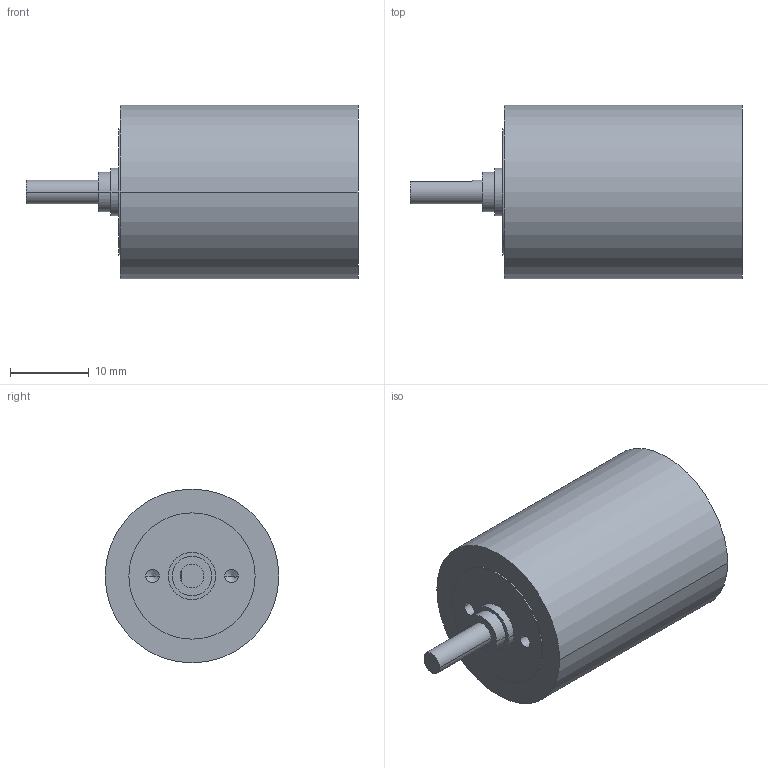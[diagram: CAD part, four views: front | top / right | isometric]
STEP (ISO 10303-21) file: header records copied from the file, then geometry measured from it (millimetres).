
FILE_DESCRIPTION((''),'2;1');
FILE_NAME('1682158','2016-10-04T',('mmagvisi'),(''),'CREO PARAMETRIC BY PTC INC, 2016050','CREO PARAMETRIC BY PTC INC, 2016050','');
FILE_SCHEMA(('CONFIG_CONTROL_DESIGN'));
Length unit declared in the file: millimetre
Products named in the file (1): 1682158
Bounding box: 42.05 x 22 x 22 mm (x, y, z)
Volume: 10776.1 mm3; surface area: 3199.3 mm2
Topology: 1 solids, 1 shells, 32 faces, 68 edges, 42 vertices
Faces by surface type: cylinder 18, plane 10, cone 4
Entity records: 953 total; most frequent: DIRECTION 162, CARTESIAN_POINT 143, ORIENTED_EDGE 128, AXIS2_PLACEMENT_3D 68, EDGE_CURVE 64, COLOUR_RGB 58, VERTEX_POINT 42, EDGE_LOOP 40
